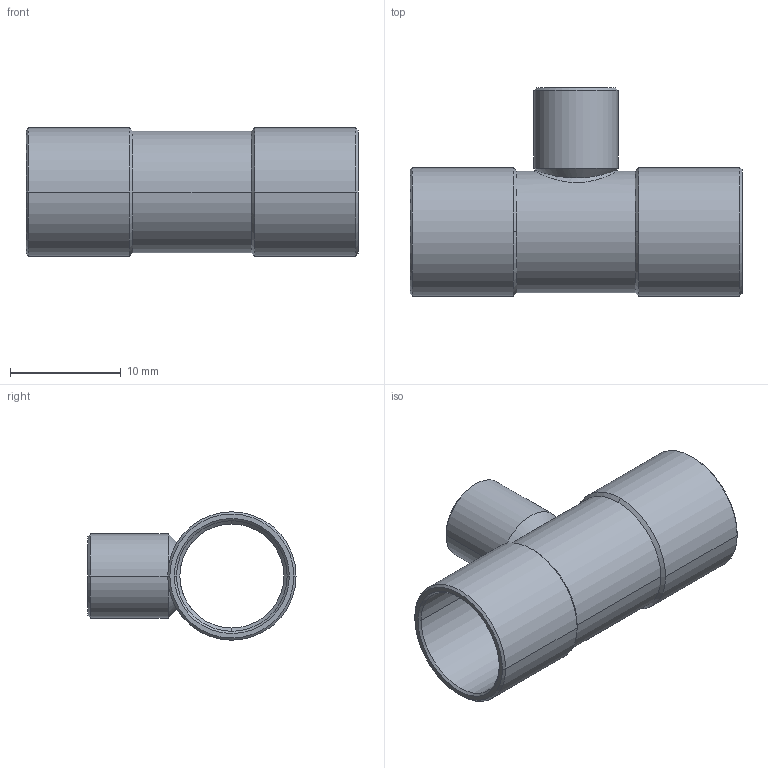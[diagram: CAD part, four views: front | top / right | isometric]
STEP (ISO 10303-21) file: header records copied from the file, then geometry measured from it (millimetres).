
FILE_DESCRIPTION((''),'2;1');
FILE_NAME('P:\Bouwmaten\z-maattekeningen 3D\5000\5130\513010610.stp','2005-10-26T11:52:19',('Kris'),(''),'Autodesk Inventor 8','Autodesk Inventor 8','');
FILE_SCHEMA(('AUTOMOTIVE_DESIGN { 1 0 10303 214 1 1 1 1 }'));
Length unit declared in the file: millimetre
Products named in the file (1): 513010610
Bounding box: 30 x 18.8 x 11.6 mm (x, y, z)
Volume: 921.2 mm3; surface area: 2359.7 mm2
Topology: 1 solids, 1 shells, 45 faces, 116 edges, 72 vertices
Faces by surface type: cone 20, cylinder 12, bspline 10, plane 3
Entity records: 1895 total; most frequent: CARTESIAN_POINT 778, DIRECTION 236, ORIENTED_EDGE 232, EDGE_CURVE 116, AXIS2_PLACEMENT_3D 97, VERTEX_POINT 72, CIRCLE 61, EDGE_LOOP 48
